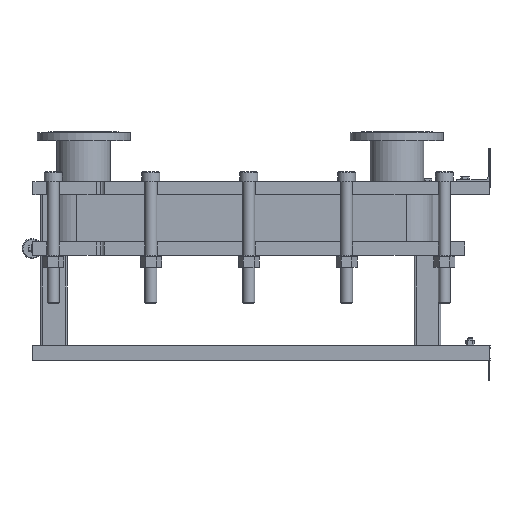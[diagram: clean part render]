
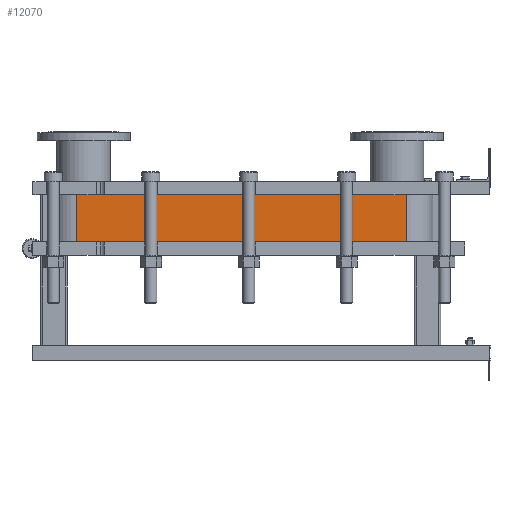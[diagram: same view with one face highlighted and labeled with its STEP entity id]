
A CAD part, left-side view. The second image highlights one B-rep face of the part: STEP entity #12070.
In plain terms, the highlighted planar face has unit normal (-1, 0, 0).
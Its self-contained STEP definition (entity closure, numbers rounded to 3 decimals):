
#1064=LINE('',#21140,#2164);
#1065=LINE('',#21144,#2165);
#1066=LINE('',#21146,#2166);
#1067=LINE('',#21147,#2167);
#2164=VECTOR('',#15790,10.);
#2165=VECTOR('',#15795,10.);
#2166=VECTOR('',#15796,10.);
#2167=VECTOR('',#15797,10.);
#3304=FACE_OUTER_BOUND('',#4091,.T.);
#4091=EDGE_LOOP('',(#9793,#9794,#9795,#9796));
#5677=VERTEX_POINT('',#21137);
#5678=VERTEX_POINT('',#21139);
#5679=VERTEX_POINT('',#21143);
#5680=VERTEX_POINT('',#21145);
#7118=EDGE_CURVE('',#5678,#5677,#1064,.T.);
#7120=EDGE_CURVE('',#5677,#5679,#1065,.T.);
#7121=EDGE_CURVE('',#5680,#5679,#1066,.T.);
#7122=EDGE_CURVE('',#5680,#5678,#1067,.T.);
#9793=ORIENTED_EDGE('',*,*,#7120,.T.);
#9794=ORIENTED_EDGE('',*,*,#7121,.F.);
#9795=ORIENTED_EDGE('',*,*,#7122,.T.);
#9796=ORIENTED_EDGE('',*,*,#7118,.T.);
#11441=PLANE('',#13191);
#12070=ADVANCED_FACE('',(#3304),#11441,.T.);
#13191=AXIS2_PLACEMENT_3D('',#21142,#15793,#15794);
#15790=DIRECTION('',(0.,0.,-1.));
#15793=DIRECTION('center_axis',(-1.,0.,0.));
#15794=DIRECTION('ref_axis',(0.,1.,0.));
#15795=DIRECTION('',(0.,-1.,0.));
#15796=DIRECTION('',(0.,0.,-1.));
#15797=DIRECTION('',(0.,1.,0.));
#21137=CARTESIAN_POINT('',(-248.152,1243.818,-141.45));
#21139=CARTESIAN_POINT('',(-248.152,1243.818,0.));
#21140=CARTESIAN_POINT('',(-248.152,1243.818,0.));
#21142=CARTESIAN_POINT('Origin',(-248.152,251.818,0.));
#21143=CARTESIAN_POINT('',(-248.152,251.818,-141.45));
#21144=CARTESIAN_POINT('',(-248.152,499.818,-141.45));
#21145=CARTESIAN_POINT('',(-248.152,251.818,0.));
#21146=CARTESIAN_POINT('',(-248.152,251.818,0.));
#21147=CARTESIAN_POINT('',(-248.152,251.818,0.));
